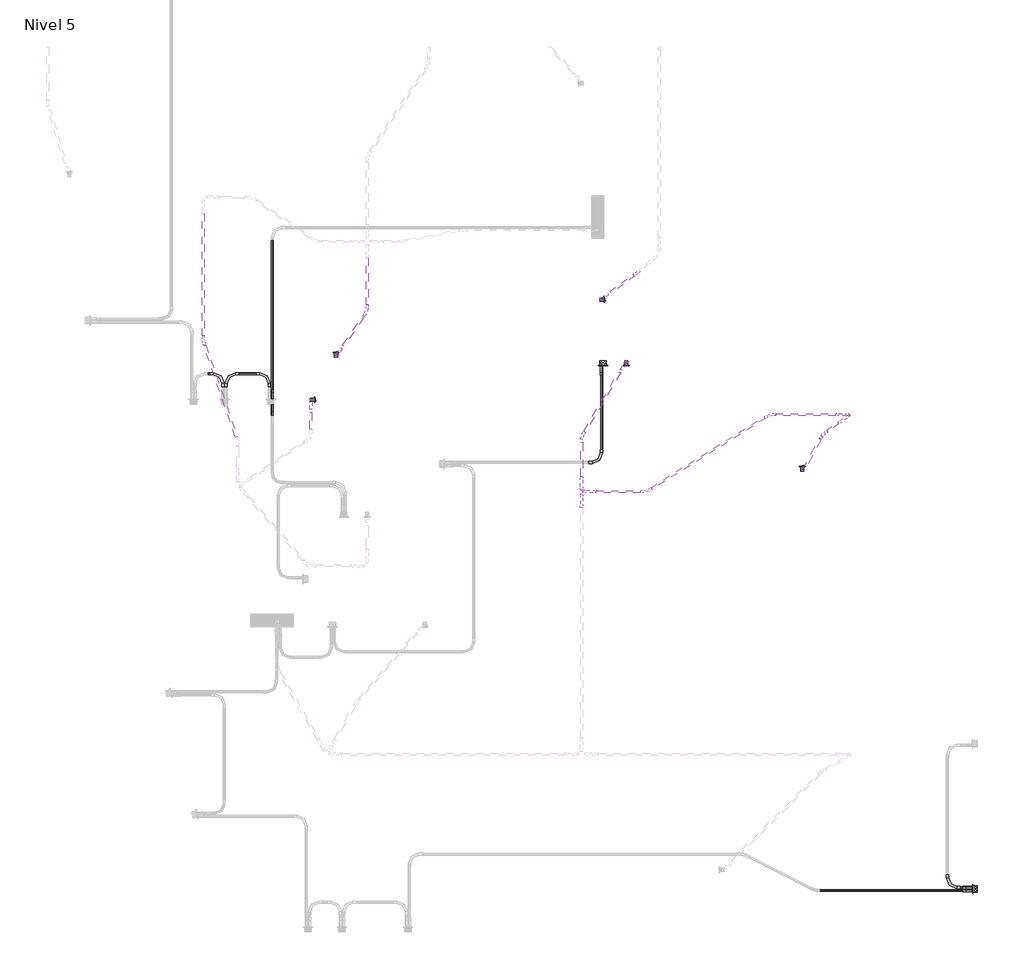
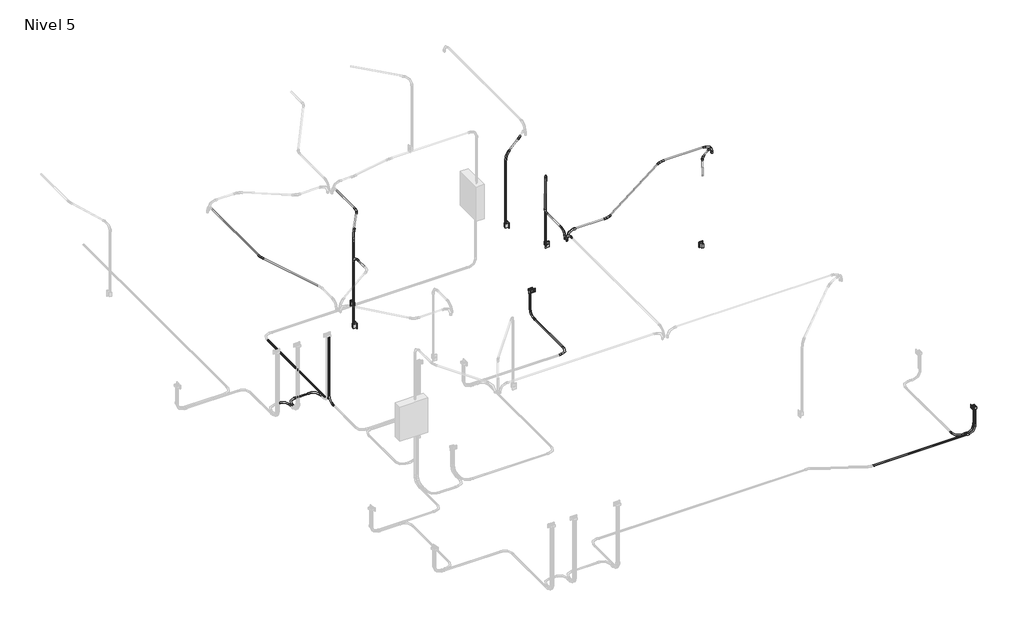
# One storey, part 5 of 9: 27 cable carrier segments, 26 cable carrier fittings, 5 switching devices, 2 proxies.
"""IFC4 building model written with IfcOpenShell, lengths in millimetres."""

from ifc_helpers import new_model, si_unit, point, frame, frame_2d, origin, place, context, project, spatial, circle_curve, trimmed, segment, composite_curve, outline, extrude, transform, mapped, element, save
from components import gfci_180f1b41, m_codo_de_tubo_extremo_liso_pvc_9da73e12, m_codo_de_tubo_extremo_liso_pvc_102f0f41, m_codo_de_tubo_extremo_liso_pvc_df1a18ac, m_codo_de_tubo_extremo_liso_pvc_11955b95, m_codo_de_tubo_extremo_liso_pvc_2733f828, m_codo_de_tubo_extremo_liso_pvc_ba9b4636, m_codo_de_tubo_extremo_liso_pvc_85a23a77, m_codo_de_tubo_extremo_liso_pvc_a8d565f0, switching_device_22fed34b

model = new_model("IFC4")

# Units and contexts
model_context = context("Model", 3, world=origin())
ifc_project = project(units=[si_unit("LENGTHUNIT", "METRE", prefix="MILLI")], contexts=[model_context])

# Site, building, storey
site = spatial("IfcSite", under=ifc_project)
building = spatial("IfcBuilding", under=site)
storey = spatial("IfcBuildingStorey", under=building, Name="Nivel 5", Elevation=10750.0)

# Proxies
placement = place(None, origin())
gfci_shape = gfci_180f1b41(model_context)
element("IfcBuildingElementProxy", 1, Name="Tomacorriente doble 220V : GFCI", ObjectType="Tomacorriente doble 220V : GFCI", at=placement, inside=storey, context=model_context, shape_type="MappedRepresentation", body=[
    mapped(gfci_shape, transform((4788.9442582, 6865.0, 11150.0), x_axis=(0.0, 0.0, 1.0), y_axis=(-1.0, 0.0, 0.0), z_axis=(0.0, -1.0, 0.0))),
])
element("IfcBuildingElementProxy", 2, Name="Tomacorriente doble 220V : GFCI", ObjectType="Tomacorriente doble 220V : GFCI", at=placement, inside=storey, context=model_context, shape_type="MappedRepresentation", body=[
    mapped(gfci_shape, transform((9215.0, 595.5526623, 11150.0), x_axis=(0.0, 0.0, 1.0), y_axis=(0.0, 1.0, 0.0), z_axis=(-1.0, 0.0, 0.0))),
])

# Cable carrier fittings
m_codo_de_tubo_extremo_liso_pvc_shape = m_codo_de_tubo_extremo_liso_pvc_9da73e12(model_context)
element("IfcCableCarrierFitting", 3, ObjectType="M_Codo de tubo - Extremo liso - PVC : CODO POTENCIA", at=placement, inside=storey, context=model_context, shape_type="MappedRepresentation", body=[
    mapped(m_codo_de_tubo_extremo_liso_pvc_shape, transform((239.7872816, 6760.6953232, 10680.0), x_axis=(0.0, 1.0, 0.0), y_axis=(-1.0, 0.0, 0.0), z_axis=(0.0, 0.0, 1.0))),
])
element("IfcCableCarrierFitting", 4, ObjectType="M_Codo de tubo - Extremo liso - PVC : CODO POTENCIA", at=placement, inside=storey, context=model_context, shape_type="MappedRepresentation", body=[
    mapped(m_codo_de_tubo_extremo_liso_pvc_shape, transform((793.8323658, 6760.6953232, 10680.0), x_axis=(0.0, 1.0, 0.0), y_axis=(-1.0, 0.0, 0.0), z_axis=(0.0, 0.0, 1.0))),
])
element("IfcCableCarrierFitting", 5, ObjectType="M_Codo de tubo - Extremo liso - PVC : CODO POTENCIA", at=placement, inside=storey, context=model_context, shape_type="MappedRepresentation", body=[
    mapped(m_codo_de_tubo_extremo_liso_pvc_shape, transform((275.8509212, 6760.6953232, 10680.0), x_axis=(-1.0, 0.0, 0.0), y_axis=(0.0, -1.0, 0.0), z_axis=(0.0, 0.0, 1.0))),
])
element("IfcCableCarrierFitting", 6, ObjectType="M_Codo de tubo - Extremo liso - PVC : CODO POTENCIA", at=placement, inside=storey, context=model_context, shape_type="MappedRepresentation", body=[
    mapped(m_codo_de_tubo_extremo_liso_pvc_shape, transform((829.8960055, 6420.72557, 10680.0), x_axis=(0.0, 0.0, -1.0), y_axis=(0.0, 1.0, 0.0), z_axis=(1.0, 0.0, 0.0))),
])
element("IfcCableCarrierFitting", 7, ObjectType="M_Codo de tubo - Extremo liso - PVC : CODO POTENCIA", at=placement, inside=storey, context=model_context, shape_type="MappedRepresentation", body=[
    mapped(m_codo_de_tubo_extremo_liso_pvc_shape, transform((830.5416736, 6419.627394, 10680.0), x_axis=(0.0, 0.0, -1.0), y_axis=(-0.0028176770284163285, -0.9999960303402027, 0.0), z_axis=(-0.9999960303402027, 0.0028176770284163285, 0.0))),
])
element("IfcCableCarrierFitting", 8, ObjectType="M_Codo de tubo - Extremo liso - PVC : CODO POTENCIA", at=placement, inside=storey, context=model_context, shape_type="MappedRepresentation", body=[
    mapped(m_codo_de_tubo_extremo_liso_pvc_shape, transform((9244.6371118, 613.5844821, 10680.0), x_axis=(0.0, 0.0, -1.0), y_axis=(-1.0, 0.0, 0.0), z_axis=(0.0, 1.0, 0.0))),
])
element("IfcCableCarrierFitting", 9, ObjectType="M_Codo de tubo - Extremo liso - PVC : CODO POTENCIA", at=placement, inside=storey, context=model_context, shape_type="MappedRepresentation", body=[
    mapped(m_codo_de_tubo_extremo_liso_pvc_shape, transform((8909.6371118, 613.5844821, 10680.0), x_axis=(0.0, -1.0, 0.0), y_axis=(1.0, 0.0, 0.0), z_axis=(0.0, 0.0, 1.0))),
])
element("IfcCableCarrierFitting", 10, ObjectType="M_Codo de tubo - Extremo liso - PVC : CODO POTENCIA", at=placement, inside=storey, context=model_context, shape_type="MappedRepresentation", body=[
    mapped(m_codo_de_tubo_extremo_liso_pvc_shape, transform((9244.6371118, 577.5208425, 10680.0), x_axis=(0.0, 0.0, -1.0), y_axis=(-1.0, 0.0, 0.0), z_axis=(0.0, 1.0, 0.0))),
])
element("IfcCableCarrierFitting", 11, ObjectType="M_Codo de tubo - Extremo liso - PVC : CODO POTENCIA", at=placement, inside=storey, context=model_context, shape_type="MappedRepresentation", body=[
    mapped(m_codo_de_tubo_extremo_liso_pvc_shape, transform((4770.9124384, 6894.6371118, 10680.0), x_axis=(0.0, 0.0, -1.0), y_axis=(0.0, -1.0, 0.0), z_axis=(-1.0, 0.0, 0.0))),
])
element("IfcCableCarrierFitting", 12, ObjectType="M_Codo de tubo - Extremo liso - PVC : CODO POTENCIA", at=placement, inside=storey, context=model_context, shape_type="MappedRepresentation", body=[
    mapped(m_codo_de_tubo_extremo_liso_pvc_shape, transform((4770.9124384, 5700.7168374, 10680.0), x_axis=(1.0, 0.0, 0.0), y_axis=(0.0, 1.0, 0.0), z_axis=(0.0, 0.0, 1.0))),
])
element("IfcCableCarrierFitting", 13, ObjectType="M_Codo de tubo - Extremo liso - PVC : CODO ILUMINACION", at=placement, inside=storey, context=model_context, shape_type="MappedRepresentation", body=[
    mapped(m_codo_de_tubo_extremo_liso_pvc_shape, transform((4555.7571937, 5351.8289823, 13300.0), x_axis=(-1.0, 0.0, 0.0), y_axis=(0.0, 0.0, -1.0), z_axis=(0.0, -1.0, 0.0))),
])
element("IfcCableCarrierFitting", 14, ObjectType="M_Codo de tubo - Extremo liso - PVC : CODO ILUMINACION", at=placement, inside=storey, context=model_context, shape_type="MappedRepresentation", body=[
    mapped(m_codo_de_tubo_extremo_liso_pvc_shape, transform((1592.3824682, 6971.8611243, 13300.0), x_axis=(0.0, 0.0, 1.0), y_axis=(0.568387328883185, 0.8227611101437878, 0.0), z_axis=(-0.8227611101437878, 0.568387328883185, 0.0))),
])
element("IfcCableCarrierFitting", 15, ObjectType="M_Codo de tubo - Extremo liso - PVC : CODO ILUMINACION", at=placement, inside=storey, context=model_context, shape_type="MappedRepresentation", body=[
    mapped(m_codo_de_tubo_extremo_liso_pvc_shape, transform((1291.8611243, 6450.9317773, 13300.0), x_axis=(0.0, 0.0, 1.0), y_axis=(0.0, -1.0, 0.0), z_axis=(1.0, 0.0, 0.0))),
])
element("IfcCableCarrierFitting", 16, ObjectType="M_Codo de tubo - Extremo liso - PVC : CODO ILUMINACION", at=placement, inside=storey, context=model_context, shape_type="MappedRepresentation", body=[
    mapped(m_codo_de_tubo_extremo_liso_pvc_shape, transform((4756.8537469, 7648.4498708, 13300.0), x_axis=(0.0, 0.0, 1.0), y_axis=(0.8091907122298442, 0.5875460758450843, 0.0), z_axis=(-0.5875460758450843, 0.8091907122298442, 0.0))),
])
element("IfcCableCarrierFitting", 17, ObjectType="M_Codo de tubo - Extremo liso - PVC : CODO ILUMINACION", at=placement, inside=storey, context=model_context, shape_type="MappedRepresentation", body=[
    mapped(m_codo_de_tubo_extremo_liso_pvc_shape, transform((4530.988472, 5376.3370364, 13300.0), x_axis=(0.0, -1.0, 0.0), y_axis=(0.0, 0.0, -1.0), z_axis=(1.0, 0.0, 0.0))),
])
element("IfcCableCarrierFitting", 18, ObjectType="M_Codo de tubo - Extremo liso - PVC : CODO ILUMINACION", at=placement, inside=storey, context=model_context, shape_type="MappedRepresentation", body=[
    mapped(m_codo_de_tubo_extremo_liso_pvc_shape, transform((5065.2559384, 6908.1388757, 13300.0), x_axis=(0.0, 0.0, 1.0), y_axis=(-0.5107137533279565, -0.8597508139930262, 0.0), z_axis=(0.8597508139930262, -0.5107137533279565, 0.0))),
])
m_codo_de_tubo_extremo_liso_pvc_2_shape = m_codo_de_tubo_extremo_liso_pvc_102f0f41(model_context)
element("IfcCableCarrierFitting", 19, ObjectType="M_Codo de tubo - Extremo liso - PVC : CODO ILUMINACION", at=placement, inside=storey, context=model_context, shape_type="MappedRepresentation", body=[
    mapped(m_codo_de_tubo_extremo_liso_pvc_2_shape, transform((7724.1412417, 6272.6826022, 13300.0), x_axis=(1.0, 0.0, 0.0), y_axis=(0.0, 0.0, 1.0), z_axis=(0.0, -1.0, 0.0))),
])
element("IfcCableCarrierFitting", 20, ObjectType="M_Codo de tubo - Extremo liso - PVC : CODO ILUMINACION", at=placement, inside=storey, context=model_context, shape_type="MappedRepresentation", body=[
    mapped(m_codo_de_tubo_extremo_liso_pvc_2_shape, transform((4530.988472, 5311.5917931, 13300.0), x_axis=(0.0, 1.0, 0.0), y_axis=(0.0, 0.0, 1.0), z_axis=(1.0, 0.0, 0.0))),
])
element("IfcCableCarrierFitting", 21, ObjectType="M_Codo de tubo - Extremo liso - PVC : CODO ILUMINACION", at=placement, inside=storey, context=model_context, shape_type="MappedRepresentation", body=[
    mapped(m_codo_de_tubo_extremo_liso_pvc_2_shape, transform((7728.149113, 6260.3476427, 13300.0), x_axis=(0.8090169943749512, 0.5877852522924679, 0.0), y_axis=(0.0, 0.0, 1.0), z_axis=(0.5877852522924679, -0.8090169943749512, 0.0))),
])
m_codo_de_tubo_extremo_liso_pvc_3_shape = m_codo_de_tubo_extremo_liso_pvc_df1a18ac(model_context)
element("IfcCableCarrierFitting", 22, ObjectType="M_Codo de tubo - Extremo liso - PVC : CODO ILUMINACION", at=placement, inside=storey, context=model_context, shape_type="MappedRepresentation", body=[
    mapped(m_codo_de_tubo_extremo_liso_pvc_3_shape, transform((2.9239409, 7157.4794777, 13300.0), x_axis=(0.0, -1.0, 0.0), y_axis=(1.0, 0.0, 0.0), z_axis=(0.0, 0.0, 1.0))),
])
m_codo_de_tubo_extremo_liso_pvc_4_shape = m_codo_de_tubo_extremo_liso_pvc_11955b95(model_context)
element("IfcCableCarrierFitting", 23, ObjectType="M_Codo de tubo - Extremo liso - PVC : CODO ILUMINACION", at=placement, inside=storey, context=model_context, shape_type="MappedRepresentation", body=[
    mapped(m_codo_de_tubo_extremo_liso_pvc_4_shape, transform((1964.7640795, 7510.8969057, 13300.0), x_axis=(0.5683873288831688, 0.8227611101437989, 0.0), y_axis=(-0.8227611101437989, 0.5683873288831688, 0.0), z_axis=(0.0, 0.0, 1.0))),
])
m_codo_de_tubo_extremo_liso_pvc_5_shape = m_codo_de_tubo_extremo_liso_pvc_2733f828(model_context)
element("IfcCableCarrierFitting", 24, ObjectType="M_Codo de tubo - Extremo liso - PVC : CODO ILUMINACION", at=placement, inside=storey, context=model_context, shape_type="MappedRepresentation", body=[
    mapped(m_codo_de_tubo_extremo_liso_pvc_5_shape, transform((5189.8241992, 7962.8258101, 13300.0), x_axis=(0.8091907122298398, 0.5875460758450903, 0.0), y_axis=(-0.5875460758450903, 0.8091907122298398, 0.0), z_axis=(0.0, 0.0, 1.0))),
])
m_codo_de_tubo_extremo_liso_pvc_6_shape = m_codo_de_tubo_extremo_liso_pvc_ba9b4636(model_context)
element("IfcCableCarrierFitting", 25, ObjectType="M_Codo de tubo - Extremo liso - PVC : CODO ILUMINACION", at=placement, inside=storey, context=model_context, shape_type="MappedRepresentation", body=[
    mapped(m_codo_de_tubo_extremo_liso_pvc_6_shape, transform((4530.988472, 6008.7370364, 13300.0), x_axis=(-0.5107137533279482, -0.8597508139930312, 0.0), y_axis=(0.8597508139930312, -0.5107137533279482, 0.0), z_axis=(0.0, 0.0, 1.0))),
])
m_codo_de_tubo_extremo_liso_pvc_7_shape = m_codo_de_tubo_extremo_liso_pvc_85a23a77(model_context)
element("IfcCableCarrierFitting", 26, ObjectType="M_Codo de tubo - Extremo liso - PVC : CODO ILUMINACION", at=placement, inside=storey, context=model_context, shape_type="MappedRepresentation", body=[
    mapped(m_codo_de_tubo_extremo_liso_pvc_7_shape, transform((5308.1571937, 5351.8289823, 13300.0), x_axis=(1.0, 0.0, 0.0), y_axis=(0.0, 1.0, 0.0), z_axis=(0.0, 0.0, 1.0))),
])
element("IfcCableCarrierFitting", 27, ObjectType="M_Codo de tubo - Extremo liso - PVC : CODO ILUMINACION", at=placement, inside=storey, context=model_context, shape_type="MappedRepresentation", body=[
    mapped(m_codo_de_tubo_extremo_liso_pvc_7_shape, transform((6781.8310377, 6272.6826022, 13300.0), x_axis=(-1.0, 0.0, 0.0), y_axis=(0.0, -1.0, 0.0), z_axis=(0.0, 0.0, 1.0))),
])
m_codo_de_tubo_extremo_liso_pvc_8_shape = m_codo_de_tubo_extremo_liso_pvc_a8d565f0(model_context)
element("IfcCableCarrierFitting", 28, ObjectType="M_Codo de tubo - Extremo liso - PVC : CODO ILUMINACION", at=placement, inside=storey, context=model_context, shape_type="MappedRepresentation", body=[
    mapped(m_codo_de_tubo_extremo_liso_pvc_8_shape, transform((7419.9136382, 6036.4014615, 13300.0), x_axis=(-0.8090169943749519, -0.587785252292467, 0.0), y_axis=(0.587785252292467, -0.8090169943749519, 0.0), z_axis=(0.0, 0.0, 1.0))),
])

# Cable carrier segments
element("IfcCableCarrierSegment", 29, ObjectType="PVC-SEL, POTENCIA", at=placement, inside=storey, context=model_context, shape_type="SweptSolid", body=[
    extrude(outline(composite_curve([segment(trimmed(circle_curve(frame_2d((10680.0, 829.8960055)), 11.71), [point((10680.0, 818.1860055))], [point((10668.29, 829.8960055))], False, "CARTESIAN"), True, "CONTINUOUS"), segment(trimmed(circle_curve(frame_2d((10680.0, 829.8960055)), 11.71), [point((10668.29, 829.8960055))], [point((10680.0, 841.6060055))], False, "CARTESIAN"), True, "CONTINUOUS"), segment(trimmed(circle_curve(frame_2d((10680.0, 829.8960055)), 11.71), [point((10680.0, 841.6060055))], [point((10691.71, 829.8960055))], False, "CARTESIAN"), True, "CONTINUOUS"), segment(trimmed(circle_curve(frame_2d((10680.0, 829.8960055)), 11.71), [point((10691.71, 829.8960055))], [point((10680.0, 818.1860055))], False, "CARTESIAN"), True, "CONTINUOUS")], self_intersect=False)), frame((0.0, 6573.12557, 0.0), z_axis=(0.0, 1.0, 0.0), x_axis=(0.0, 0.0, 1.0)), (0.0, 0.0, 1.0), 1785.7662119),
])
element("IfcCableCarrierSegment", 30, ObjectType="PVC-SEL, POTENCIA", at=placement, inside=storey, context=model_context, shape_type="SweptSolid", body=[
    extrude(outline(composite_curve([segment(trimmed(circle_curve(frame_2d((829.8960055, 6420.72557)), 11.71), [point((841.6060055, 6420.72557))], [point((829.8960055, 6409.01557))], False, "CARTESIAN"), True, "CONTINUOUS"), segment(trimmed(circle_curve(frame_2d((829.8960055, 6420.72557)), 11.71), [point((829.8960055, 6409.01557))], [point((818.1860055, 6420.72557))], False, "CARTESIAN"), True, "CONTINUOUS"), segment(trimmed(circle_curve(frame_2d((829.8960055, 6420.72557)), 11.71), [point((818.1860055, 6420.72557))], [point((829.8960055, 6432.43557))], False, "CARTESIAN"), True, "CONTINUOUS"), segment(trimmed(circle_curve(frame_2d((829.8960055, 6420.72557)), 11.71), [point((829.8960055, 6432.43557))], [point((841.6060055, 6420.72557))], False, "CARTESIAN"), True, "CONTINUOUS")], self_intersect=False)), frame((0.0, 0.0, 10832.4), z_axis=(0.0, 0.0, 1.0), x_axis=(1.0, 0.0, 0.0)), (0.0, 0.0, 1.0), 1097.3020537),
])
element("IfcCableCarrierSegment", 31, ObjectType="PVC-SEL, POTENCIA", at=placement, inside=storey, context=model_context, shape_type="SweptSolid", body=[
    extrude(outline(composite_curve([segment(trimmed(circle_curve(frame_2d((6760.6953232, 10680.0)), 11.71), [point((6772.4053232, 10680.0))], [point((6760.6953232, 10668.29))], False, "CARTESIAN"), True, "CONTINUOUS"), segment(trimmed(circle_curve(frame_2d((6760.6953232, 10680.0)), 11.71), [point((6760.6953232, 10668.29))], [point((6748.9853232, 10680.0))], False, "CARTESIAN"), True, "CONTINUOUS"), segment(trimmed(circle_curve(frame_2d((6760.6953232, 10680.0)), 11.71), [point((6748.9853232, 10680.0))], [point((6760.6953232, 10691.71))], False, "CARTESIAN"), True, "CONTINUOUS"), segment(trimmed(circle_curve(frame_2d((6760.6953232, 10680.0)), 11.71), [point((6760.6953232, 10691.71))], [point((6772.4053232, 10680.0))], False, "CARTESIAN"), True, "CONTINUOUS")], self_intersect=False)), frame((55.859963, 0.0, 0.0), z_axis=(1.0, 0.0, 0.0), x_axis=(0.0, 1.0, 0.0)), (0.0, 0.0, 1.0), 31.5273186),
])
element("IfcCableCarrierSegment", 32, ObjectType="PVC-SEL, POTENCIA", at=placement, inside=storey, context=model_context, shape_type="SweptSolid", body=[
    extrude(outline(composite_curve([segment(trimmed(circle_curve(frame_2d((6760.6953232, 10680.0)), 11.71), [point((6772.4053232, 10680.0))], [point((6760.6953232, 10668.29))], False, "CARTESIAN"), True, "CONTINUOUS"), segment(trimmed(circle_curve(frame_2d((6760.6953232, 10680.0)), 11.71), [point((6760.6953232, 10668.29))], [point((6748.9853232, 10680.0))], False, "CARTESIAN"), True, "CONTINUOUS"), segment(trimmed(circle_curve(frame_2d((6760.6953232, 10680.0)), 11.71), [point((6748.9853232, 10680.0))], [point((6760.6953232, 10691.71))], False, "CARTESIAN"), True, "CONTINUOUS"), segment(trimmed(circle_curve(frame_2d((6760.6953232, 10680.0)), 11.71), [point((6760.6953232, 10691.71))], [point((6772.4053232, 10680.0))], False, "CARTESIAN"), True, "CONTINUOUS")], self_intersect=False)), frame((428.2509212, 0.0, 0.0), z_axis=(1.0, 0.0, 0.0), x_axis=(0.0, 1.0, 0.0)), (0.0, 0.0, 1.0), 213.1814446),
])
element("IfcCableCarrierSegment", 33, ObjectType="PVC-SEL, POTENCIA", at=placement, inside=storey, context=model_context, shape_type="SweptSolid", body=[
    extrude(outline(composite_curve([segment(trimmed(circle_curve(frame_2d((613.5844821, 10680.0)), 11.71), [point((625.2944821, 10680.0))], [point((613.5844821, 10668.29))], False, "CARTESIAN"), True, "CONTINUOUS"), segment(trimmed(circle_curve(frame_2d((613.5844821, 10680.0)), 11.71), [point((613.5844821, 10668.29))], [point((601.8744821, 10680.0))], False, "CARTESIAN"), True, "CONTINUOUS"), segment(trimmed(circle_curve(frame_2d((613.5844821, 10680.0)), 11.71), [point((601.8744821, 10680.0))], [point((613.5844821, 10691.71))], False, "CARTESIAN"), True, "CONTINUOUS"), segment(trimmed(circle_curve(frame_2d((613.5844821, 10680.0)), 11.71), [point((613.5844821, 10691.71))], [point((625.2944821, 10680.0))], False, "CARTESIAN"), True, "CONTINUOUS")], self_intersect=False)), frame((9062.0371118, 0.0, 0.0), z_axis=(1.0, 0.0, 0.0), x_axis=(0.0, 1.0, 0.0)), (0.0, 0.0, 1.0), 30.2),
])
element("IfcCableCarrierSegment", 34, ObjectType="PVC-SEL, POTENCIA", at=placement, inside=storey, context=model_context, shape_type="SweptSolid", body=[
    extrude(outline(composite_curve([segment(trimmed(circle_curve(frame_2d((9244.6371118, 613.5844821)), 11.71), [point((9256.3471118, 613.5844821))], [point((9244.6371118, 601.8744821))], False, "CARTESIAN"), True, "CONTINUOUS"), segment(trimmed(circle_curve(frame_2d((9244.6371118, 613.5844821)), 11.71), [point((9244.6371118, 601.8744821))], [point((9232.9271118, 613.5844821))], False, "CARTESIAN"), True, "CONTINUOUS"), segment(trimmed(circle_curve(frame_2d((9244.6371118, 613.5844821)), 11.71), [point((9232.9271118, 613.5844821))], [point((9244.6371118, 625.2944821))], False, "CARTESIAN"), True, "CONTINUOUS"), segment(trimmed(circle_curve(frame_2d((9244.6371118, 613.5844821)), 11.71), [point((9244.6371118, 625.2944821))], [point((9256.3471118, 613.5844821))], False, "CARTESIAN"), True, "CONTINUOUS")], self_intersect=False)), frame((0.0, 0.0, 10832.4), z_axis=(0.0, 0.0, 1.0), x_axis=(1.0, 0.0, 0.0)), (0.0, 0.0, 1.0), 297.3020537),
])
element("IfcCableCarrierSegment", 35, ObjectType="PVC-SEL, POTENCIA", at=placement, inside=storey, context=model_context, shape_type="SweptSolid", body=[
    extrude(outline(composite_curve([segment(trimmed(circle_curve(frame_2d((577.5208425, 10680.0)), 11.71), [point((589.2308425, 10680.0))], [point((577.5208425, 10668.29))], False, "CARTESIAN"), True, "CONTINUOUS"), segment(trimmed(circle_curve(frame_2d((577.5208425, 10680.0)), 11.71), [point((577.5208425, 10668.29))], [point((565.8108425, 10680.0))], False, "CARTESIAN"), True, "CONTINUOUS"), segment(trimmed(circle_curve(frame_2d((577.5208425, 10680.0)), 11.71), [point((565.8108425, 10680.0))], [point((577.5208425, 10691.71))], False, "CARTESIAN"), True, "CONTINUOUS"), segment(trimmed(circle_curve(frame_2d((577.5208425, 10680.0)), 11.71), [point((577.5208425, 10691.71))], [point((589.2308425, 10680.0))], False, "CARTESIAN"), True, "CONTINUOUS")], self_intersect=False)), frame((7390.1781139, 0.0, 0.0), z_axis=(1.0, 0.0, 0.0), x_axis=(0.0, 1.0, 0.0)), (0.0, 0.0, 1.0), 1702.0589978),
])
element("IfcCableCarrierSegment", 36, ObjectType="PVC-SEL, POTENCIA", at=placement, inside=storey, context=model_context, shape_type="SweptSolid", body=[
    extrude(outline(composite_curve([segment(trimmed(circle_curve(frame_2d((9244.6371118, 577.5208425)), 11.71), [point((9256.3471118, 577.5208425))], [point((9244.6371118, 565.8108425))], False, "CARTESIAN"), True, "CONTINUOUS"), segment(trimmed(circle_curve(frame_2d((9244.6371118, 577.5208425)), 11.71), [point((9244.6371118, 565.8108425))], [point((9232.9271118, 577.5208425))], False, "CARTESIAN"), True, "CONTINUOUS"), segment(trimmed(circle_curve(frame_2d((9244.6371118, 577.5208425)), 11.71), [point((9232.9271118, 577.5208425))], [point((9244.6371118, 589.2308425))], False, "CARTESIAN"), True, "CONTINUOUS"), segment(trimmed(circle_curve(frame_2d((9244.6371118, 577.5208425)), 11.71), [point((9244.6371118, 589.2308425))], [point((9256.3471118, 577.5208425))], False, "CARTESIAN"), True, "CONTINUOUS")], self_intersect=False)), frame((0.0, 0.0, 10832.4), z_axis=(0.0, 0.0, 1.0), x_axis=(1.0, 0.0, 0.0)), (0.0, 0.0, 1.0), 297.3020537),
])
element("IfcCableCarrierSegment", 37, ObjectType="PVC-SEL, POTENCIA", at=placement, inside=storey, context=model_context, shape_type="SweptSolid", body=[
    extrude(outline(composite_curve([segment(trimmed(circle_curve(frame_2d((4770.9124384, 6894.6371118)), 11.71), [point((4782.6224384, 6894.6371118))], [point((4770.9124384, 6882.9271118))], False, "CARTESIAN"), True, "CONTINUOUS"), segment(trimmed(circle_curve(frame_2d((4770.9124384, 6894.6371118)), 11.71), [point((4770.9124384, 6882.9271118))], [point((4759.2024384, 6894.6371118))], False, "CARTESIAN"), True, "CONTINUOUS"), segment(trimmed(circle_curve(frame_2d((4770.9124384, 6894.6371118)), 11.71), [point((4759.2024384, 6894.6371118))], [point((4770.9124384, 6906.3471118))], False, "CARTESIAN"), True, "CONTINUOUS"), segment(trimmed(circle_curve(frame_2d((4770.9124384, 6894.6371118)), 11.71), [point((4770.9124384, 6906.3471118))], [point((4782.6224384, 6894.6371118))], False, "CARTESIAN"), True, "CONTINUOUS")], self_intersect=False)), frame((0.0, 0.0, 10832.4), z_axis=(0.0, 0.0, 1.0), x_axis=(1.0, 0.0, 0.0)), (0.0, 0.0, 1.0), 297.3020537),
])
element("IfcCableCarrierSegment", 38, ObjectType="PVC-SEL, POTENCIA", at=placement, inside=storey, context=model_context, shape_type="SweptSolid", body=[
    extrude(outline(composite_curve([segment(trimmed(circle_curve(frame_2d((10680.0, 4770.9124384)), 11.71), [point((10680.0, 4759.2024384))], [point((10668.29, 4770.9124384))], False, "CARTESIAN"), True, "CONTINUOUS"), segment(trimmed(circle_curve(frame_2d((10680.0, 4770.9124384)), 11.71), [point((10668.29, 4770.9124384))], [point((10680.0, 4782.6224384))], False, "CARTESIAN"), True, "CONTINUOUS"), segment(trimmed(circle_curve(frame_2d((10680.0, 4770.9124384)), 11.71), [point((10680.0, 4782.6224384))], [point((10691.71, 4770.9124384))], False, "CARTESIAN"), True, "CONTINUOUS"), segment(trimmed(circle_curve(frame_2d((10680.0, 4770.9124384)), 11.71), [point((10691.71, 4770.9124384))], [point((10680.0, 4759.2024384))], False, "CARTESIAN"), True, "CONTINUOUS")], self_intersect=False)), frame((0.0, 5853.1168374, 0.0), z_axis=(0.0, 1.0, 0.0), x_axis=(0.0, 0.0, 1.0)), (0.0, 0.0, 1.0), 889.1202744),
])
element("IfcCableCarrierSegment", 39, ObjectType="PVC-SEL ILUMINACION", at=placement, inside=storey, context=model_context, shape_type="SweptSolid", body=[
    extrude(outline(composite_curve([segment(trimmed(circle_curve(frame_2d((13300.0, 1964.7640795)), 11.71), [point((13300.0, 1953.0540795))], [point((13288.29, 1964.7640795))], False, "CARTESIAN"), True, "CONTINUOUS"), segment(trimmed(circle_curve(frame_2d((13300.0, 1964.7640795)), 11.71), [point((13288.29, 1964.7640795))], [point((13300.0, 1976.4740795))], False, "CARTESIAN"), True, "CONTINUOUS"), segment(trimmed(circle_curve(frame_2d((13300.0, 1964.7640795)), 11.71), [point((13300.0, 1976.4740795))], [point((13311.71, 1964.7640795))], False, "CARTESIAN"), True, "CONTINUOUS"), segment(trimmed(circle_curve(frame_2d((13300.0, 1964.7640795)), 11.71), [point((13311.71, 1964.7640795))], [point((13300.0, 1953.0540795))], False, "CARTESIAN"), True, "CONTINUOUS")], self_intersect=False)), frame((0.0, 7584.638807, 0.0), z_axis=(0.0, 1.0, 0.0), x_axis=(0.0, 0.0, 1.0)), (0.0, 0.0, 1.0), 565.1247939),
])
element("IfcCableCarrierSegment", 40, ObjectType="PVC-SEL ILUMINACION", at=placement, inside=storey, context=model_context, shape_type="SweptSolid", body=[
    extrude(outline(composite_curve([segment(trimmed(circle_curve(frame_2d((0.0, -11.71)), 11.71), [point((-11.71, -11.71))], [point((0.0, 0.0))], False, "CARTESIAN"), True, "CONTINUOUS"), segment(trimmed(circle_curve(frame_2d((0.0, -11.71)), 11.71), [point((0.0, 0.0))], [point((11.71, -11.71))], False, "CARTESIAN"), True, "CONTINUOUS"), segment(trimmed(circle_curve(frame_2d((0.0, -11.71)), 11.71), [point((11.71, -11.71))], [point((0.0, -23.42))], False, "CARTESIAN"), True, "CONTINUOUS"), segment(trimmed(circle_curve(frame_2d((0.0, -11.71)), 11.71), [point((0.0, -23.42))], [point((-11.71, -11.71))], False, "CARTESIAN"), True, "CONTINUOUS")], self_intersect=False)), frame((1679.0046972, 7097.2499175, 13288.29), z_axis=(0.5683873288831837, 0.8227611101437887, 0.0), x_axis=(0.8227611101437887, -0.5683873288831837, 0.0)), (0.0, 0.0, 1.0), 429.0127658),
])
element("IfcCableCarrierSegment", 41, ObjectType="PVC-SEL ILUMINACION", at=placement, inside=storey, context=model_context, shape_type="SweptSolid", body=[
    extrude(outline(composite_curve([segment(trimmed(circle_curve(frame_2d((1592.3824682, 6971.8611243)), 11.71), [point((1580.6724682, 6971.8611243))], [point((1592.3824682, 6983.5711243))], False, "CARTESIAN"), True, "CONTINUOUS"), segment(trimmed(circle_curve(frame_2d((1592.3824682, 6971.8611243)), 11.71), [point((1592.3824682, 6983.5711243))], [point((1604.0924682, 6971.8611243))], False, "CARTESIAN"), True, "CONTINUOUS"), segment(trimmed(circle_curve(frame_2d((1592.3824682, 6971.8611243)), 11.71), [point((1604.0924682, 6971.8611243))], [point((1592.3824682, 6960.1511243))], False, "CARTESIAN"), True, "CONTINUOUS"), segment(trimmed(circle_curve(frame_2d((1592.3824682, 6971.8611243)), 11.71), [point((1592.3824682, 6960.1511243))], [point((1580.6724682, 6971.8611243))], False, "CARTESIAN"), True, "CONTINUOUS")], self_intersect=False)), frame((0.0, 0.0, 11990.2227463), z_axis=(0.0, 0.0, 1.0), x_axis=(1.0, 0.0, 0.0)), (0.0, 0.0, 1.0), 1157.3772537),
])
element("IfcCableCarrierSegment", 42, ObjectType="PVC-SEL ILUMINACION", at=placement, inside=storey, context=model_context, shape_type="SweptSolid", body=[
    extrude(outline(composite_curve([segment(trimmed(circle_curve(frame_2d((13300.0, 2.9239409)), 11.71), [point((13300.0, -8.7860591))], [point((13288.29, 2.9239409))], False, "CARTESIAN"), True, "CONTINUOUS"), segment(trimmed(circle_curve(frame_2d((13300.0, 2.9239409)), 11.71), [point((13288.29, 2.9239409))], [point((13300.0, 14.6339409))], False, "CARTESIAN"), True, "CONTINUOUS"), segment(trimmed(circle_curve(frame_2d((13300.0, 2.9239409)), 11.71), [point((13300.0, 14.6339409))], [point((13311.71, 2.9239409))], False, "CARTESIAN"), True, "CONTINUOUS"), segment(trimmed(circle_curve(frame_2d((13300.0, 2.9239409)), 11.71), [point((13311.71, 2.9239409))], [point((13300.0, -8.7860591))], False, "CARTESIAN"), True, "CONTINUOUS")], self_intersect=False)), frame((0.0, 7214.7067379, 0.0), z_axis=(0.0, 1.0, 0.0), x_axis=(0.0, 0.0, 1.0)), (0.0, 0.0, 1.0), 1462.7727398),
])
element("IfcCableCarrierSegment", 43, ObjectType="PVC-SEL ILUMINACION", at=placement, inside=storey, context=model_context, shape_type="SweptSolid", body=[
    extrude(outline(composite_curve([segment(trimmed(circle_curve(frame_2d((0.0, -11.71)), 11.71), [point((-11.71, -11.71))], [point((0.0, 0.0))], False, "CARTESIAN"), True, "CONTINUOUS"), segment(trimmed(circle_curve(frame_2d((0.0, -11.71)), 11.71), [point((0.0, 0.0))], [point((11.71, -11.71))], False, "CARTESIAN"), True, "CONTINUOUS"), segment(trimmed(circle_curve(frame_2d((0.0, -11.71)), 11.71), [point((11.71, -11.71))], [point((0.0, -23.42))], False, "CARTESIAN"), True, "CONTINUOUS"), segment(trimmed(circle_curve(frame_2d((0.0, -11.71)), 11.71), [point((0.0, -23.42))], [point((-11.71, -11.71))], False, "CARTESIAN"), True, "CONTINUOUS")], self_intersect=False)), frame((399.0601289, 6007.0164515, 13288.29), z_axis=(-0.32556815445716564, 0.9455185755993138, 0.0), x_axis=(0.9455185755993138, 0.32556815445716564, 0.0)), (0.0, 0.0, 1.0), 1159.5262292),
])
element("IfcCableCarrierSegment", 44, ObjectType="PVC-SEL ILUMINACION", at=placement, inside=storey, context=model_context, shape_type="SweptSolid", body=[
    extrude(outline(composite_curve([segment(trimmed(circle_curve(frame_2d((13300.0, 1291.8611243)), 11.71), [point((13300.0, 1280.1511243))], [point((13288.29, 1291.8611243))], False, "CARTESIAN"), True, "CONTINUOUS"), segment(trimmed(circle_curve(frame_2d((13300.0, 1291.8611243)), 11.71), [point((13288.29, 1291.8611243))], [point((13300.0, 1303.5711243))], False, "CARTESIAN"), True, "CONTINUOUS"), segment(trimmed(circle_curve(frame_2d((13300.0, 1291.8611243)), 11.71), [point((13300.0, 1303.5711243))], [point((13311.71, 1291.8611243))], False, "CARTESIAN"), True, "CONTINUOUS"), segment(trimmed(circle_curve(frame_2d((13300.0, 1291.8611243)), 11.71), [point((13311.71, 1291.8611243))], [point((13300.0, 1280.1511243))], False, "CARTESIAN"), True, "CONTINUOUS")], self_intersect=False)), frame((0.0, 6098.0574655, 0.0), z_axis=(0.0, 1.0, 0.0), x_axis=(0.0, 0.0, 1.0)), (0.0, 0.0, 1.0), 200.4743117),
])
element("IfcCableCarrierSegment", 45, ObjectType="PVC-SEL ILUMINACION", at=placement, inside=storey, context=model_context, shape_type="SweptSolid", body=[
    extrude(outline(composite_curve([segment(trimmed(circle_curve(frame_2d((1291.8611243, 6450.9317773)), 11.71), [point((1280.1511243, 6450.9317773))], [point((1291.8611243, 6462.6417773))], False, "CARTESIAN"), True, "CONTINUOUS"), segment(trimmed(circle_curve(frame_2d((1291.8611243, 6450.9317773)), 11.71), [point((1291.8611243, 6462.6417773))], [point((1303.5711243, 6450.9317773))], False, "CARTESIAN"), True, "CONTINUOUS"), segment(trimmed(circle_curve(frame_2d((1291.8611243, 6450.9317773)), 11.71), [point((1303.5711243, 6450.9317773))], [point((1291.8611243, 6439.2217773))], False, "CARTESIAN"), True, "CONTINUOUS"), segment(trimmed(circle_curve(frame_2d((1291.8611243, 6450.9317773)), 11.71), [point((1291.8611243, 6439.2217773))], [point((1280.1511243, 6450.9317773))], False, "CARTESIAN"), True, "CONTINUOUS")], self_intersect=False)), frame((0.0, 0.0, 11990.2227463), z_axis=(0.0, 0.0, 1.0), x_axis=(1.0, 0.0, 0.0)), (0.0, 0.0, 1.0), 1157.3772537),
])
element("IfcCableCarrierSegment", 46, ObjectType="PVC-SEL ILUMINACION", at=placement, inside=storey, context=model_context, shape_type="SweptSolid", body=[
    extrude(outline(composite_curve([segment(trimmed(circle_curve(frame_2d((0.0, 11.71)), 11.71), [point((11.71, 11.71))], [point((0.0, 0.0))], False, "CARTESIAN"), True, "CONTINUOUS"), segment(trimmed(circle_curve(frame_2d((0.0, 11.71)), 11.71), [point((0.0, 0.0))], [point((-11.71, 11.71))], False, "CARTESIAN"), True, "CONTINUOUS"), segment(trimmed(circle_curve(frame_2d((0.0, 11.71)), 11.71), [point((-11.71, 11.71))], [point((0.0, 23.42))], False, "CARTESIAN"), True, "CONTINUOUS"), segment(trimmed(circle_curve(frame_2d((0.0, 11.71)), 11.71), [point((0.0, 23.42))], [point((11.71, 11.71))], False, "CARTESIAN"), True, "CONTINUOUS")], self_intersect=False)), frame((4880.1744115, 7737.9918928, 13311.71), z_axis=(0.8091907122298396, 0.5875460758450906, 0.0), x_axis=(0.5875460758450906, -0.8091907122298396, 0.0)), (0.0, 0.0, 1.0), 339.5586461),
])
element("IfcCableCarrierSegment", 47, ObjectType="PVC-SEL ILUMINACION", at=placement, inside=storey, context=model_context, shape_type="SweptSolid", body=[
    extrude(outline(composite_curve([segment(trimmed(circle_curve(frame_2d((4756.8537469, 7648.4498708)), 11.71), [point((4745.1437469, 7648.4498708))], [point((4756.8537469, 7660.1598708))], False, "CARTESIAN"), True, "CONTINUOUS"), segment(trimmed(circle_curve(frame_2d((4756.8537469, 7648.4498708)), 11.71), [point((4756.8537469, 7660.1598708))], [point((4768.5637469, 7648.4498708))], False, "CARTESIAN"), True, "CONTINUOUS"), segment(trimmed(circle_curve(frame_2d((4756.8537469, 7648.4498708)), 11.71), [point((4768.5637469, 7648.4498708))], [point((4756.8537469, 7636.7398708))], False, "CARTESIAN"), True, "CONTINUOUS"), segment(trimmed(circle_curve(frame_2d((4756.8537469, 7648.4498708)), 11.71), [point((4756.8537469, 7636.7398708))], [point((4745.1437469, 7648.4498708))], False, "CARTESIAN"), True, "CONTINUOUS")], self_intersect=False)), frame((0.0, 0.0, 11990.2227463), z_axis=(0.0, 0.0, 1.0), x_axis=(1.0, 0.0, 0.0)), (0.0, 0.0, 1.0), 1157.3772537),
])
element("IfcCableCarrierSegment", 48, ObjectType="PVC-SEL ILUMINACION", at=placement, inside=storey, context=model_context, shape_type="SweptSolid", body=[
    extrude(outline(composite_curve([segment(trimmed(circle_curve(frame_2d((13300.0, 4530.988472)), 11.71), [point((13300.0, 4542.698472))], [point((13311.71, 4530.988472))], False, "CARTESIAN"), True, "CONTINUOUS"), segment(trimmed(circle_curve(frame_2d((13300.0, 4530.988472)), 11.71), [point((13311.71, 4530.988472))], [point((13300.0, 4519.278472))], False, "CARTESIAN"), True, "CONTINUOUS"), segment(trimmed(circle_curve(frame_2d((13300.0, 4530.988472)), 11.71), [point((13300.0, 4519.278472))], [point((13288.29, 4530.988472))], False, "CARTESIAN"), True, "CONTINUOUS"), segment(trimmed(circle_curve(frame_2d((13300.0, 4530.988472)), 11.71), [point((13288.29, 4530.988472))], [point((13300.0, 4542.698472))], False, "CARTESIAN"), True, "CONTINUOUS")], self_intersect=False)), frame((0.0, 5528.7370364, 0.0), z_axis=(0.0, 1.0, 0.0), x_axis=(0.0, 0.0, 1.0)), (0.0, 0.0, 1.0), 410.511611),
])
element("IfcCableCarrierSegment", 49, ObjectType="PVC-SEL ILUMINACION", at=placement, inside=storey, context=model_context, shape_type="SweptSolid", body=[
    extrude(outline(composite_curve([segment(trimmed(circle_curve(frame_2d((0.0, 11.71)), 11.71), [point((11.71, 11.71))], [point((0.0, 0.0))], False, "CARTESIAN"), True, "CONTINUOUS"), segment(trimmed(circle_curve(frame_2d((0.0, 11.71)), 11.71), [point((0.0, 0.0))], [point((-11.71, 11.71))], False, "CARTESIAN"), True, "CONTINUOUS"), segment(trimmed(circle_curve(frame_2d((0.0, 11.71)), 11.71), [point((-11.71, 11.71))], [point((0.0, 23.42))], False, "CARTESIAN"), True, "CONTINUOUS"), segment(trimmed(circle_curve(frame_2d((0.0, 11.71)), 11.71), [point((0.0, 23.42))], [point((11.71, 11.71))], False, "CARTESIAN"), True, "CONTINUOUS")], self_intersect=False)), frame((4566.477148, 6068.4797354, 13311.71), z_axis=(0.510713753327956, 0.8597508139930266, 0.0), x_axis=(0.8597508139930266, -0.510713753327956, 0.0)), (0.0, 0.0, 1.0), 824.2308175),
])
element("IfcCableCarrierSegment", 50, ObjectType="PVC-SEL ILUMINACION", at=placement, inside=storey, context=model_context, shape_type="SweptSolid", body=[
    extrude(outline(composite_curve([segment(trimmed(circle_curve(frame_2d((5065.2559384, 6908.1388757)), 11.71), [point((5053.5459384, 6908.1388757))], [point((5065.2559384, 6919.8488757))], False, "CARTESIAN"), True, "CONTINUOUS"), segment(trimmed(circle_curve(frame_2d((5065.2559384, 6908.1388757)), 11.71), [point((5065.2559384, 6919.8488757))], [point((5076.9659384, 6908.1388757))], False, "CARTESIAN"), True, "CONTINUOUS"), segment(trimmed(circle_curve(frame_2d((5065.2559384, 6908.1388757)), 11.71), [point((5076.9659384, 6908.1388757))], [point((5065.2559384, 6896.4288757))], False, "CARTESIAN"), True, "CONTINUOUS"), segment(trimmed(circle_curve(frame_2d((5065.2559384, 6908.1388757)), 11.71), [point((5065.2559384, 6896.4288757))], [point((5053.5459384, 6908.1388757))], False, "CARTESIAN"), True, "CONTINUOUS")], self_intersect=False)), frame((0.0, 0.0, 11990.2227463), z_axis=(0.0, 0.0, 1.0), x_axis=(1.0, 0.0, 0.0)), (0.0, 0.0, 1.0), 1157.3772537),
])
element("IfcCableCarrierSegment", 51, ObjectType="PVC-SEL ILUMINACION", at=placement, inside=storey, context=model_context, shape_type="SweptSolid", body=[
    extrude(outline(composite_curve([segment(trimmed(circle_curve(frame_2d((5351.8289823, 13300.0)), 11.71), [point((5340.1189823, 13300.0))], [point((5351.8289823, 13311.71))], False, "CARTESIAN"), True, "CONTINUOUS"), segment(trimmed(circle_curve(frame_2d((5351.8289823, 13300.0)), 11.71), [point((5351.8289823, 13311.71))], [point((5363.5389823, 13300.0))], False, "CARTESIAN"), True, "CONTINUOUS"), segment(trimmed(circle_curve(frame_2d((5351.8289823, 13300.0)), 11.71), [point((5363.5389823, 13300.0))], [point((5351.8289823, 13288.29))], False, "CARTESIAN"), True, "CONTINUOUS"), segment(trimmed(circle_curve(frame_2d((5351.8289823, 13300.0)), 11.71), [point((5351.8289823, 13288.29))], [point((5340.1189823, 13300.0))], False, "CARTESIAN"), True, "CONTINUOUS")], self_intersect=False)), frame((4708.1571937, 0.0, 0.0), z_axis=(1.0, 0.0, 0.0), x_axis=(0.0, 1.0, 0.0)), (0.0, 0.0, 1.0), 529.1250024),
])
element("IfcCableCarrierSegment", 52, ObjectType="PVC-SEL ILUMINACION", at=placement, inside=storey, context=model_context, shape_type="SweptSolid", body=[
    extrude(outline(composite_curve([segment(trimmed(circle_curve(frame_2d((0.0, 11.71)), 11.71), [point((11.71, 11.71))], [point((0.0, 0.0))], False, "CARTESIAN"), True, "CONTINUOUS"), segment(trimmed(circle_curve(frame_2d((0.0, 11.71)), 11.71), [point((0.0, 0.0))], [point((-11.71, 11.71))], False, "CARTESIAN"), True, "CONTINUOUS"), segment(trimmed(circle_curve(frame_2d((0.0, 11.71)), 11.71), [point((-11.71, 11.71))], [point((0.0, 23.42))], False, "CARTESIAN"), True, "CONTINUOUS"), segment(trimmed(circle_curve(frame_2d((0.0, 11.71)), 11.71), [point((0.0, 23.42))], [point((11.71, 11.71))], False, "CARTESIAN"), True, "CONTINUOUS")], self_intersect=False)), frame((5368.2626005, 5389.3870089, 13311.71), z_axis=(0.8480480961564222, 0.5299192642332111, 0.0), x_axis=(0.5299192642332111, -0.8480480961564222, 0.0)), (0.0, 0.0, 1.0), 1595.9743753),
])
element("IfcCableCarrierSegment", 53, ObjectType="PVC-SEL ILUMINACION", at=placement, inside=storey, context=model_context, shape_type="SweptSolid", body=[
    extrude(outline(composite_curve([segment(trimmed(circle_curve(frame_2d((6272.6826022, 13300.0)), 11.71), [point((6284.3926022, 13300.0))], [point((6272.6826022, 13288.29))], False, "CARTESIAN"), True, "CONTINUOUS"), segment(trimmed(circle_curve(frame_2d((6272.6826022, 13300.0)), 11.71), [point((6272.6826022, 13288.29))], [point((6260.9726022, 13300.0))], False, "CARTESIAN"), True, "CONTINUOUS"), segment(trimmed(circle_curve(frame_2d((6272.6826022, 13300.0)), 11.71), [point((6260.9726022, 13300.0))], [point((6272.6826022, 13311.71))], False, "CARTESIAN"), True, "CONTINUOUS"), segment(trimmed(circle_curve(frame_2d((6272.6826022, 13300.0)), 11.71), [point((6272.6826022, 13311.71))], [point((6284.3926022, 13300.0))], False, "CARTESIAN"), True, "CONTINUOUS")], self_intersect=False)), frame((6852.7060353, 0.0, 0.0), z_axis=(1.0, 0.0, 0.0), x_axis=(0.0, 1.0, 0.0)), (0.0, 0.0, 1.0), 719.0352064),
])
element("IfcCableCarrierSegment", 54, ObjectType="PVC-SEL ILUMINACION", at=placement, inside=storey, context=model_context, shape_type="SweptSolid", body=[
    extrude(outline(composite_curve([segment(trimmed(circle_curve(frame_2d((0.0, -11.71)), 11.71), [point((-11.71, -11.71))], [point((0.0, 0.0))], False, "CARTESIAN"), True, "CONTINUOUS"), segment(trimmed(circle_curve(frame_2d((0.0, -11.71)), 11.71), [point((0.0, 0.0))], [point((11.71, -11.71))], False, "CARTESIAN"), True, "CONTINUOUS"), segment(trimmed(circle_curve(frame_2d((0.0, -11.71)), 11.71), [point((11.71, -11.71))], [point((0.0, -23.42))], False, "CARTESIAN"), True, "CONTINUOUS"), segment(trimmed(circle_curve(frame_2d((0.0, -11.71)), 11.71), [point((0.0, -23.42))], [point((-11.71, -11.71))], False, "CARTESIAN"), True, "CONTINUOUS")], self_intersect=False)), frame((7182.4635413, 5604.6405209, 13288.29), z_axis=(0.4818900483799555, 0.876231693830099, 0.0), x_axis=(0.876231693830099, -0.4818900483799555, 0.0)), (0.0, 0.0, 1.0), 429.1077205),
])
element("IfcCableCarrierSegment", 55, ObjectType="PVC-SEL ILUMINACION", at=placement, inside=storey, context=model_context, shape_type="SweptSolid", body=[
    extrude(outline(composite_curve([segment(trimmed(circle_curve(frame_2d((0.0, -11.71)), 11.71), [point((-11.71, -11.71))], [point((0.0, 0.0))], False, "CARTESIAN"), True, "CONTINUOUS"), segment(trimmed(circle_curve(frame_2d((0.0, -11.71)), 11.71), [point((0.0, 0.0))], [point((11.71, -11.71))], False, "CARTESIAN"), True, "CONTINUOUS"), segment(trimmed(circle_curve(frame_2d((0.0, -11.71)), 11.71), [point((11.71, -11.71))], [point((0.0, -23.42))], False, "CARTESIAN"), True, "CONTINUOUS"), segment(trimmed(circle_curve(frame_2d((0.0, -11.71)), 11.71), [point((0.0, -23.42))], [point((-11.71, -11.71))], False, "CARTESIAN"), True, "CONTINUOUS")], self_intersect=False)), frame((7471.3992681, 6073.8079613, 13288.29), z_axis=(0.809016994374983, 0.5877852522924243, 0.0), x_axis=(0.5877852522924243, -0.809016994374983, 0.0)), (0.0, 0.0, 1.0), 164.9602615),
])

# Switching devices
switching_device_shape = switching_device_22fed34b(model_context)
element("IfcSwitchingDevice", 56, ObjectType="Interruptor : Tridireccional", at=placement, inside=storey, context=model_context, shape_type="MappedRepresentation", body=[
    mapped(switching_device_shape, transform((4799.9926226, 7648.4997165, 11950.0), x_axis=(0.0, 1.0, 0.0), y_axis=(0.0, 0.0, 1.0), z_axis=(1.0, 0.0, 0.0))),
])
element("IfcSwitchingDevice", 57, ObjectType="Interruptor : Tridireccional", at=placement, inside=storey, context=model_context, shape_type="MappedRepresentation", body=[
    mapped(switching_device_shape, transform((1335.0, 6450.9816229, 11950.0), x_axis=(0.0, 1.0, 0.0), y_axis=(0.0, 0.0, 1.0), z_axis=(1.0, 0.0, 0.0))),
])
element("IfcSwitchingDevice", 58, ObjectType="Interruptor : Tridireccional", at=placement, inside=storey, context=model_context, shape_type="MappedRepresentation", body=[
    mapped(switching_device_shape, transform((5065.305784, 6865.0, 11950.0), x_axis=(1.0, 0.0, 0.0), y_axis=(0.0, 0.0, 1.0), z_axis=(0.0, -1.0, 0.0))),
])
element("IfcSwitchingDevice", 59, ObjectType="Interruptor : Tridireccional", at=placement, inside=storey, context=model_context, shape_type="MappedRepresentation", body=[
    mapped(switching_device_shape, transform((7173.937652, 5650.3626818, 11950.0), x_axis=(-1.0, 0.0, 0.0), y_axis=(0.0, 0.0, 1.0), z_axis=(0.0, 1.0, 0.0))),
])
element("IfcSwitchingDevice", 60, ObjectType="Interruptor : Tridireccional", at=placement, inside=storey, context=model_context, shape_type="MappedRepresentation", body=[
    mapped(switching_device_shape, transform((1592.3326226, 7015.0, 11950.0), x_axis=(-1.0, 0.0, 0.0), y_axis=(0.0, 0.0, 1.0), z_axis=(0.0, 1.0, 0.0))),
])

save(model, "model.ifc")
